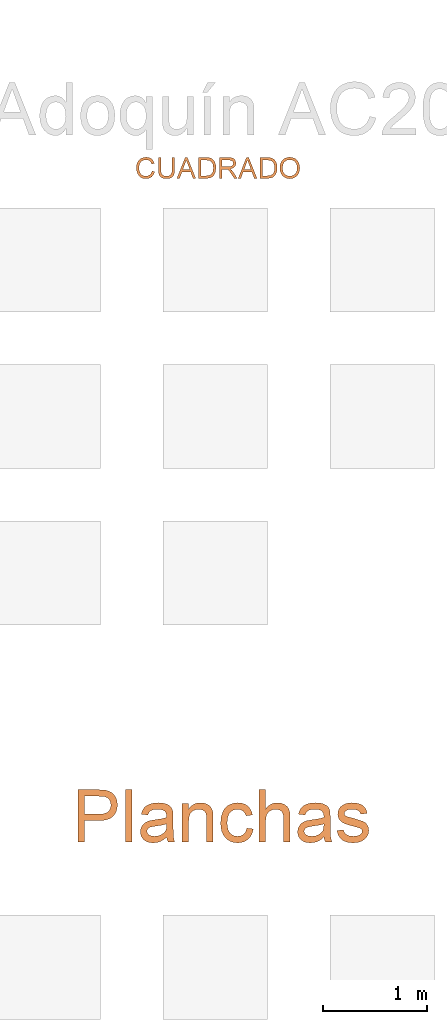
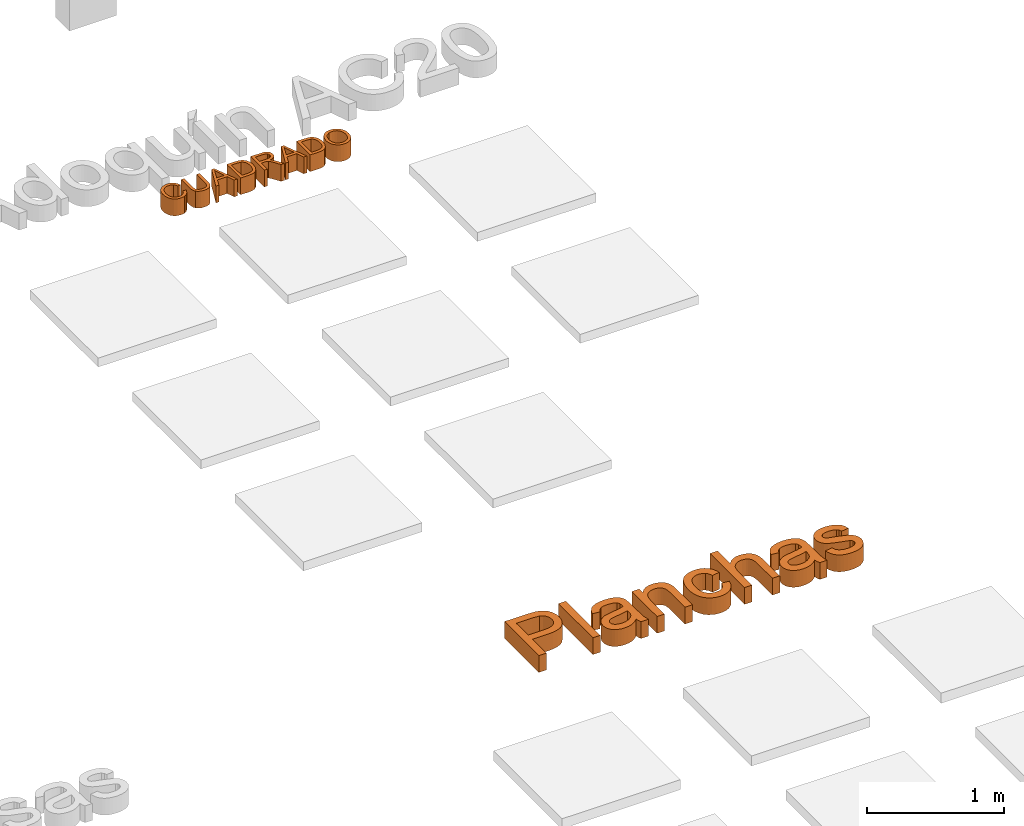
# One storey, part 11 of 19: 2 proxies.
"""IFC2X3 building model written with IfcOpenShell, lengths in metres."""

from ifc_helpers import new_model, entity, si_unit, converted_unit, derived_unit, direction, frame, frame_2d, origin, place, context, subcontext, project, spatial, polyline, rectangle, outline, extrude, type_object, element, save


model = new_model("IFC2X3")

# Units and contexts
model_context = context("Model", 3, precision=1e-05, world=origin(), true_north=direction((6.12303176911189e-17, 1.0)))
body_context = subcontext(model_context, "Body", "Model", "MODEL_VIEW")
ifc_project = project(units=[si_unit("LENGTHUNIT", "METRE"), si_unit("AREAUNIT", "SQUARE_METRE"), si_unit("VOLUMEUNIT", "CUBIC_METRE"), converted_unit("PLANEANGLEUNIT", "DEGREE", entity("IfcRatioMeasure", 0.0174532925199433), si_unit("PLANEANGLEUNIT", "RADIAN"), dimensions=[0, 0, 0, 0, 0, 0, 0]), si_unit("MASSUNIT", "GRAM", prefix="KILO"), derived_unit("MASSDENSITYUNIT", [(si_unit("MASSUNIT", "GRAM", prefix="KILO"), 1), (si_unit("LENGTHUNIT", "METRE"), -3)]), derived_unit("MOMENTOFINERTIAUNIT", [(si_unit("LENGTHUNIT", "METRE"), 4)]), si_unit("TIMEUNIT", "SECOND"), si_unit("FREQUENCYUNIT", "HERTZ"), si_unit("THERMODYNAMICTEMPERATUREUNIT", "DEGREE_CELSIUS"), derived_unit("THERMALTRANSMITTANCEUNIT", [(si_unit("MASSUNIT", "GRAM", prefix="KILO"), 1), (si_unit("THERMODYNAMICTEMPERATUREUNIT", "KELVIN"), -1), (si_unit("TIMEUNIT", "SECOND"), -3)]), derived_unit("VOLUMETRICFLOWRATEUNIT", [(si_unit("LENGTHUNIT", "METRE"), 3), (si_unit("TIMEUNIT", "SECOND"), -1)]), si_unit("ELECTRICCURRENTUNIT", "AMPERE"), si_unit("ELECTRICVOLTAGEUNIT", "VOLT"), si_unit("POWERUNIT", "WATT"), si_unit("FORCEUNIT", "NEWTON", prefix="KILO"), si_unit("ILLUMINANCEUNIT", "LUX"), si_unit("LUMINOUSFLUXUNIT", "LUMEN"), si_unit("LUMINOUSINTENSITYUNIT", "CANDELA"), derived_unit("USERDEFINED", [(si_unit("MASSUNIT", "GRAM", prefix="KILO"), -1), (si_unit("LENGTHUNIT", "METRE"), -2), (si_unit("TIMEUNIT", "SECOND"), 3), (si_unit("LUMINOUSFLUXUNIT", "LUMEN"), 1)]), derived_unit("LINEARVELOCITYUNIT", [(si_unit("LENGTHUNIT", "METRE"), 1), (si_unit("TIMEUNIT", "SECOND"), -1)]), si_unit("PRESSUREUNIT", "PASCAL"), derived_unit("USERDEFINED", [(si_unit("LENGTHUNIT", "METRE"), -2), (si_unit("MASSUNIT", "GRAM", prefix="KILO"), 1), (si_unit("TIMEUNIT", "SECOND"), -2)]), derived_unit("LINEARFORCEUNIT", [(si_unit("MASSUNIT", "GRAM", prefix="KILO"), 1), (si_unit("LENGTHUNIT", "METRE"), 1), (si_unit("TIMEUNIT", "SECOND"), -2), (si_unit("LENGTHUNIT", "METRE"), -1)]), derived_unit("PLANARFORCEUNIT", [(si_unit("MASSUNIT", "GRAM", prefix="KILO"), 1), (si_unit("LENGTHUNIT", "METRE"), 1), (si_unit("TIMEUNIT", "SECOND"), -2), (si_unit("LENGTHUNIT", "METRE"), -2)])], contexts=[model_context])

# Site, building, storey
site_placement = place(None, origin())
site = spatial("IfcSite", under=ifc_project, at=site_placement, Name="Default", CompositionType="ELEMENT")
building_placement = place(site_placement, origin())
building = spatial("IfcBuilding", under=site, at=building_placement, CompositionType="ELEMENT")
storey_placement = place(building_placement, origin())
storey = spatial("IfcBuildingStorey", under=building, at=storey_placement, Name="Nivel 1", CompositionType="ELEMENT", Elevation=0.0)

# Proxies
building_element_proxy_type_1 = type_object("IfcBuildingElementProxyType", Name="Texto de modelo:Subtítulo", PredefinedType="NOTDEFINED")
proxy_1_placement = place(storey_placement, origin())
element("IfcBuildingElementProxy", 1, at=proxy_1_placement, inside=storey, type_object=building_element_proxy_type_1, Name="Texto de modelo:Subtítulo", ObjectType="Texto de modelo:Subtítulo", context=body_context, shape_type="SweptSolid", body=[
    extrude(outline(polyline([(0.00355232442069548, -0.0754517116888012), (0.000735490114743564, -0.10123357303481), (0.0322073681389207, -0.100733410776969), (0.0586340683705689, -0.091275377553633), (0.07930924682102, -0.0735495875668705), (0.0935265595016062, -0.048246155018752), (0.100733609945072, -0.0198295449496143), (0.0996500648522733, 0.00530853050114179), (0.0908072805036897, 0.0276031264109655), (0.0747366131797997, 0.0474892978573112), (0.0532622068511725, 0.0640355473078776), (0.0282082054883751, 0.076310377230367), (-0.000248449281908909, 0.0838799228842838), (-0.0270668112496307, 0.0844731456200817), (-0.0513308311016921, 0.0782421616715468), (-0.0721244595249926, 0.0653390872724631), (-0.0887450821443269, 0.0469994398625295), (-0.10049008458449, 0.0244587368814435), (-0.106560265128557, -0.00268319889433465), (-0.103625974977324, -0.0281270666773), (-0.0921127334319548, -0.0509518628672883), (-0.0724460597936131, -0.0702365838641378), (-0.0579739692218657, -0.0488570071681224), (-0.0720305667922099, -0.0342408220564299), (-0.0795803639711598, -0.0186741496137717), (-0.0809958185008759, -0.00185900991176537), (-0.0766493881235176, 0.0165025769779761), (-0.0665154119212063, 0.0357323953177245), (-0.0527173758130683, 0.0494622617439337), (-0.0361963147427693, 0.0575953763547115), (-0.0178932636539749, 0.0600349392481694), (0.000999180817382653, 0.0580310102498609), (0.0192884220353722, 0.0528336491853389), (0.0403234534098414, 0.0428633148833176), (0.0570828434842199, 0.0304574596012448), (0.0687737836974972, 0.0156861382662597), (0.0746034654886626, -0.00138059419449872), (0.0751312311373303, -0.0194006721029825), (0.0709164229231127, -0.0370320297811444), (0.0605954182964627, -0.0555423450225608), (0.0456816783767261, -0.0685820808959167), (0.0265442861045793, -0.0754517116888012), (0.00355232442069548, -0.0754517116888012)])), frame((8.37776844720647, 2.59727446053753, 0.0), z_axis=(0.0, 0.0, -1.0), x_axis=(-0.353343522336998, -0.935493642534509, 0.0)), (0.0, 0.0, -1.0), 0.15),
    extrude(outline(polyline([(-0.13955778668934, -0.0559653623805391), (-0.13955778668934, -0.0810794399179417), (-0.0236504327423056, -0.0810794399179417), (0.00349312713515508, -0.0793749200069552), (0.0243949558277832, -0.0742613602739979), (0.0405204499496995, -0.0647086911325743), (0.0533350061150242, -0.0496868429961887), (0.0617043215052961, -0.0291590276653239), (0.0644940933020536, -0.0030884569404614), (0.0620660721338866, 0.0224118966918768), (0.0547820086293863, 0.0427986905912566), (0.0428932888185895, 0.0580780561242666), (0.0266512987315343, 0.0682561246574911), (0.00486655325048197, 0.07397668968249), (-0.0236504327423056, 0.0758835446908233), (-0.13955778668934, 0.0758835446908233), (-0.13955778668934, 0.0507694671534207), (-0.0245333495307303, 0.0507694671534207), (-0.00196378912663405, 0.0495309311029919), (0.0137509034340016, 0.0458153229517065), (0.0246340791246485, 0.0390830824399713), (0.0327090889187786, 0.0287946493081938), (0.0377122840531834, 0.0153792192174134), (0.0393800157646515, -0.000734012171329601), (0.0360813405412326, -0.0262772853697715), (0.0261853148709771, -0.0432611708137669), (0.00690829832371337, -0.0527893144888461), (-0.0245333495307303, -0.0559653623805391), (-0.13955778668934, -0.0559653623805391)])), frame((8.58262733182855, 2.55722758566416, 0.0), z_axis=(0.0, 0.0, -1.0), x_axis=(0.0, -1.0, 0.0)), (0.0, 0.0, -1.0), 0.15),
    extrude(outline(polyline([(-0.0908607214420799, -0.0659244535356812), (-0.0643732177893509, -0.0659244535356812), (-0.0414173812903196, -0.00313925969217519), (0.0413805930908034, -0.00313925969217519), (0.0643364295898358, -0.0659244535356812), (0.0908729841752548, -0.0659244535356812), (0.0107237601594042, 0.134988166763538), (-0.0106624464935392, 0.134988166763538), (-0.0908607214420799, -0.0659244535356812)]), holes=[polyline([(-0.032195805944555, 0.0219748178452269), (-0.0125263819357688, 0.0756855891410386), (-1.83940997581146e-05, 0.109874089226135), (0.0140592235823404, 0.0713691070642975), (0.0322080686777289, 0.0219748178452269), (-0.032195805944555, 0.0219748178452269)])]), frame((8.77516888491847, 2.56179720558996, 0.0)), (0.0, 0.0, 1.0), 0.15),
    extrude(outline(polyline([(-0.112205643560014, -0.108781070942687), (-0.0395612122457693, -0.108781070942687), (-0.00726117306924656, -0.10534750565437), (0.0167492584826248, -0.0952675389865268), (0.0350943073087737, -0.0770451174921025), (0.0488285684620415, -0.0477862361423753), (0.0541751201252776, -0.00724564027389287), (0.052200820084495, 0.0181382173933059), (0.0462779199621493, 0.0405299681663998), (0.0363818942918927, 0.0595617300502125), (0.0224882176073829, 0.074865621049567), (0.00897468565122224, 0.0836580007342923), (-0.00704044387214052, 0.0892375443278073), (-0.0428966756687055, 0.0921315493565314), (-0.112205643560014, 0.0921315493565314), (-0.112205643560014, -0.108781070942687)]), holes=[polyline([(-0.0870915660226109, -0.0836669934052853), (-0.0870915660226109, 0.0670174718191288), (-0.0433381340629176, 0.0670174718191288), (-0.00772715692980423, 0.0629952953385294), (0.00646695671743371, 0.0546075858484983), (0.0183434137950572, 0.0407261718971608), (0.0263816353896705, 0.0205171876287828), (0.029061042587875, -0.0068532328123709), (0.027693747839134, -0.027509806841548), (0.0235918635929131, -0.0448431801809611), (0.0170374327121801, -0.0589146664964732), (0.00831249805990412, -0.0697855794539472), (-0.0103268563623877, -0.0800372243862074), (-0.0426514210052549, -0.0836669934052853), (-0.0870915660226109, -0.0836669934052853)])]), frame((9.0050783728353, 2.60465382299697, 0.0)), (0.0, 0.0, 1.0), 0.15),
    extrude(outline(polyline([(-0.103134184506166, -0.103507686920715), (-0.0780201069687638, -0.103507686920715), (-0.0780201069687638, -0.0156084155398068), (-0.0477066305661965, -0.0156084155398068), (-0.0331385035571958, -0.0164913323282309), (-0.0211946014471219, -0.0212737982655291), (-0.00792632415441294, -0.0342968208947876), (0.0109582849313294, -0.0618634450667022), (0.0371024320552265, -0.103507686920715), (0.0662877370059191, -0.103507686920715), (0.032785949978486, -0.0490611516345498), (0.012429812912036, -0.0232113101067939), (-0.001844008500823, -0.0124691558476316), (0.0228960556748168, -0.00581049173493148), (0.0402171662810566, 0.00621924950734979), (0.0504258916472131, 0.0226267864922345), (0.0538288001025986, 0.0424188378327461), (0.0517747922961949, 0.0583297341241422), (0.0456127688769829, 0.0728058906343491), (0.0360110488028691, 0.0844800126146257), (0.023637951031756, 0.0919848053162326), (0.00670924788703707, 0.0960499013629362), (-0.016559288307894, 0.0974049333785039), (-0.103134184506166, 0.0974049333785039), (-0.103134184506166, -0.103507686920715)]), holes=[polyline([(-0.0780201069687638, 0.00950566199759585), (-0.0780201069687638, 0.0722908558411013), (-0.0154801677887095, 0.0722908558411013), (0.00439159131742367, 0.0701203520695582), (0.0180951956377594, 0.063608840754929), (0.0260598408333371, 0.0537373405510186), (0.028714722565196, 0.0414868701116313), (0.0231474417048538, 0.0244416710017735), (0.0162925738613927, 0.0176849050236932), (0.0068625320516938, 0.0130618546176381), (-0.0218077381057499, 0.00950566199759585), (-0.0780201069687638, 0.00950566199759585)])]), frame((9.19691953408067, 2.599380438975, 0.0)), (0.0, 0.0, 1.0), 0.15),
    extrude(outline(polyline([(-0.090860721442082, -0.0659244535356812), (-0.064373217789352, -0.0659244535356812), (-0.0414173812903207, -0.00313925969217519), (0.0413805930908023, -0.00313925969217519), (0.0643364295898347, -0.0659244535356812), (0.0908729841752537, -0.0659244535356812), (0.0107237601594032, 0.134988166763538), (-0.0106624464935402, 0.134988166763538), (-0.090860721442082, -0.0659244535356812)]), holes=[polyline([(-0.0321958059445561, 0.0219748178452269), (-0.0125263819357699, 0.0756855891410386), (-1.83940997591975e-05, 0.109874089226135), (0.0140592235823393, 0.0713691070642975), (0.0322080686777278, 0.0219748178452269), (-0.0321958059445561, 0.0219748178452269)])]), frame((9.36221044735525, 2.56179720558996, 0.0)), (0.0, 0.0, 1.0), 0.15),
    extrude(outline(polyline([(-0.112205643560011, -0.108781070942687), (-0.0395612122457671, -0.108781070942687), (-0.00726117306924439, -0.10534750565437), (0.0167492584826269, -0.0952675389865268), (0.0350943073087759, -0.0770451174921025), (0.0488285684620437, -0.0477862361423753), (0.0541751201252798, -0.00724564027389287), (0.0522008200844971, 0.0181382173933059), (0.0462779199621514, 0.0405299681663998), (0.0363818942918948, 0.0595617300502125), (0.022488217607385, 0.074865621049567), (0.00897468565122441, 0.0836580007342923), (-0.00704044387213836, 0.0892375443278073), (-0.0428966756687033, 0.0921315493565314), (-0.112205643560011, 0.0921315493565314), (-0.112205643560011, -0.108781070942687)]), holes=[polyline([(-0.0870915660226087, -0.0836669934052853), (-0.0870915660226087, 0.0670174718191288), (-0.0433381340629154, 0.0670174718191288), (-0.00772715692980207, 0.0629952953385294), (0.00646695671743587, 0.0546075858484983), (0.0183434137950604, 0.0407261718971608), (0.0263816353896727, 0.0205171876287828), (0.0290610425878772, -0.0068532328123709), (0.0276937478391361, -0.027509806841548), (0.0235918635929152, -0.0448431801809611), (0.0170374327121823, -0.0589146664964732), (0.00831249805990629, -0.0697855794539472), (-0.0103268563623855, -0.0800372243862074), (-0.0426514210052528, -0.0836669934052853), (-0.0870915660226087, -0.0836669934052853)])]), frame((9.59211993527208, 2.60465382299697, 0.0)), (0.0, 0.0, 1.0), 0.15),
    extrude(outline(polyline([(-0.00243168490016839, -0.0911086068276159), (0.0234245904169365, -0.0911086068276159), (0.0485406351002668, -0.0852513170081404), (0.0711120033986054, -0.0735079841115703), (0.0893342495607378, -0.0558498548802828), (0.102153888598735, -0.0333685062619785), (0.108517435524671, -0.00715551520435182), (0.108243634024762, 0.0182377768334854), (0.101630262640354, 0.0425498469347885), (0.0886621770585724, 0.064098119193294), (0.0693242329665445, 0.0812000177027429), (0.044863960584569, 0.0932041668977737), (0.0165288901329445, 0.0994591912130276), (-0.0120931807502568, 0.099718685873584), (-0.0381944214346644, 0.0938233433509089), (-0.0607333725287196, 0.081928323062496), (-0.0786685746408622, 0.0641887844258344), (-0.0911624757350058, 0.0418067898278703), (-0.0973775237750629, 0.0159844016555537), (-0.0978666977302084, -0.00428014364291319), (-0.0946364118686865, -0.0230043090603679), (-0.0876866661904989, -0.0401880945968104), (-0.0770174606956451, -0.0558315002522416), (-0.0629591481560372, -0.0691912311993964), (-0.0458420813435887, -0.0795239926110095), (-0.0256662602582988, -0.086829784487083), (-0.00243168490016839, -0.0911086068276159)]), holes=[polyline([(0.000599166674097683, -0.0661768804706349), (-0.0361667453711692, -0.0568025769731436), (-0.0494386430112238, -0.048734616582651), (-0.0593031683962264, -0.0384127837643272), (-0.0707387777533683, -0.0140249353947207), (-0.0724022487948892, 0.0133435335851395), (-0.0678254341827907, 0.0323958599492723), (-0.0586349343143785, 0.0488970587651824), (-0.045375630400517, 0.0619455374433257), (-0.0285924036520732, 0.0706397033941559), (-0.00878501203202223, 0.0748687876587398), (0.0135467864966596, 0.0745220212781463), (0.046032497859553, 0.0658786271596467), (0.0586705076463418, 0.0581976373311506), (0.0689052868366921, 0.0482771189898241), (0.0815976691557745, 0.0240388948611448), (0.0835421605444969, -0.00451464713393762), (0.0754407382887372, -0.0315391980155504), (0.057864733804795, -0.0523603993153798), (0.032391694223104, -0.0646742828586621), (0.000599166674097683, -0.0661768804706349)])]), frame((9.76222481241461, 2.60137470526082, 0.0), z_axis=(0.0, 0.0, 1.0), x_axis=(0.110978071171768, -0.993822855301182, 0.0)), (0.0, 0.0, 1.0), 0.15),
])
building_element_proxy_type_2 = type_object("IfcBuildingElementProxyType", Name="Texto de modelo:Título", PredefinedType="NOTDEFINED")
proxy_2_placement = place(storey_placement, origin())
element("IfcBuildingElementProxy", 2, at=proxy_2_placement, inside=storey, type_object=building_element_proxy_type_2, Name="Texto de modelo:Título", ObjectType="Texto de modelo:Título", context=body_context, shape_type="SweptSolid", body=[
    extrude(outline(polyline([(-0.254894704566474, -0.314815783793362), (-0.192109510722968, -0.314815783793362), (-0.192109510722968, -0.110763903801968), (-0.0644544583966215, -0.110763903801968), (-0.0157905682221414, -0.107989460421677), (0.0247415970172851, -0.0996661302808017), (0.0571420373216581, -0.0857939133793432), (0.0814107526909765, -0.0663728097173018), (0.0990882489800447, -0.0429433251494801), (0.111715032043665, -0.0170459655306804), (0.119291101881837, 0.0113192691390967), (0.121816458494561, 0.0421523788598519), (0.11807632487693, 0.0779135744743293), (0.106855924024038, 0.110639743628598), (0.0894888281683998, 0.138384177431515), (0.0673086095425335, 0.159200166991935), (0.0397634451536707, 0.173746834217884), (0.00630151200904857, 0.182683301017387), (-0.0687464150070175, 0.187465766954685), (-0.254894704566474, 0.187465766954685), (-0.254894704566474, -0.314815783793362)]), holes=[polyline([(-0.192109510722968, -0.0479787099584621), (-0.192109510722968, 0.124680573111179), (-0.0622471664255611, 0.124680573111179), (0.000538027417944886, 0.120388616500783), (0.0242510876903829, 0.109842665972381), (0.0429057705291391, 0.0919390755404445), (0.0549998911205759, 0.0681493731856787), (0.0590312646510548, 0.039945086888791), (0.0573221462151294, 0.0202097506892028), (0.052194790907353, 0.00281966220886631), (0.0436491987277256, -0.012225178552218), (0.0316853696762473, -0.0249247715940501), (0.0156518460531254, -0.0350108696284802), (-0.0051028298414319, -0.042215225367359), (-0.0305786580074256, -0.0465378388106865), (-0.0607756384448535, -0.0479787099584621), (-0.192109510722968, -0.0479787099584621)])]), frame((7.99324908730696, -3.54952954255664, 0.0)), (0.0, 0.0, 1.0), 0.15),
    extrude(rectangle(XDim=0.062785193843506, YDim=0.502281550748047, at=frame_2d((0.0, 5.55111512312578e-16), x_axis=(1.0, 0.0))), frame((8.22493963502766, -3.61320455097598, 0.0)), (0.0, 0.0, 1.0), 0.15),
    extrude(outline(polyline([(0.160198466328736, 0.0633183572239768), (0.186081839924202, 0.0633183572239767), (0.209576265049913, 0.0683751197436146), (0.223259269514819, 0.129651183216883), (0.196354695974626, 0.127680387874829), (0.169011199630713, 0.128948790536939), (0.0618611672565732, 0.149608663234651), (-0.0143748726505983, 0.166632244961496), (-0.068659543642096, 0.175612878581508), (-0.0932733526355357, 0.173350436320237), (-0.114444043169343, 0.166109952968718), (-0.133347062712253, 0.152284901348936), (-0.151157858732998, 0.130268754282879), (-0.166658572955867, 0.0992555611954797), (-0.178631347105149, 0.0584393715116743), (-0.185193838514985, 0.0145617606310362), (-0.184356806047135, -0.0251569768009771), (-0.176301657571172, -0.0592785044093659), (-0.161209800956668, -0.0863644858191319), (-0.138424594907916, -0.108116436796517), (-0.107289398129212, -0.126235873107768), (-0.0859468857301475, -0.0666701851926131), (-0.108704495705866, -0.048803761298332), (-0.121173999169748, -0.027769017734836), (-0.124323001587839, -0.000302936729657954), (-0.119119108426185, 0.0368574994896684), (-0.105885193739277, 0.0753031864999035), (-0.096879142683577, 0.089610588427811), (-0.0862803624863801, 0.100641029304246), (-0.0655621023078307, 0.109301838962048), (-0.0372732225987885, 0.107413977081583), (-0.0237098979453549, 0.10400833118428), (-0.0220814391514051, 0.0578462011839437), (-0.0263777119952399, -0.006970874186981), (-0.02900137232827, -0.0620468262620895), (-0.0256182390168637, -0.0865653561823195), (-0.0184759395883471, -0.109441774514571), (-0.00688892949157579, -0.130138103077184), (0.00982833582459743, -0.148116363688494), (0.030932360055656, -0.16206399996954), (0.0556796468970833, -0.170668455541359), (0.0777227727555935, -0.173552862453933), (0.0986131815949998, -0.172104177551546), (0.118350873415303, -0.1663224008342), (0.136935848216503, -0.156207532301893), (0.153501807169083, -0.141840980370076), (0.167182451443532, -0.123304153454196), (0.177977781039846, -0.100597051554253), (0.185887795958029, -0.0737196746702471), (0.190445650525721, -0.0391006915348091), (0.188458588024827, -0.00537611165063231), (0.17876379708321, 0.0284361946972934), (0.160198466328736, 0.0633183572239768)]), holes=[polyline([(0.0376463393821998, 0.0906843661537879), (0.0549197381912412, 0.0864502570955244), (0.0819049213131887, 0.0778800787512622), (0.10014824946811, 0.0661732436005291), (0.115770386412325, 0.0454711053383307), (0.126707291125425, 0.0182763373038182), (0.131208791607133, -0.0132611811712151), (0.127524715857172, -0.0469915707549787), (0.11727190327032, -0.0772919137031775), (0.102280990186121, -0.09758185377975), (0.0842943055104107, -0.107936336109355), (0.0650541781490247, -0.108430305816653), (0.0531649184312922, -0.103576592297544), (0.0433479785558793, -0.0947879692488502), (0.0362512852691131, -0.0825389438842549), (0.0325227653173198, -0.0673040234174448), (0.034361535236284, -0.0123669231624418), (0.0386557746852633, 0.047236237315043), (0.0376463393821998, 0.0906843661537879)])]), frame((8.48924545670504, -3.67470775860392, 0.0), z_axis=(0.0, 0.0, 1.0), x_axis=(0.217933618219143, -0.975963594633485, 0.0)), (0.0, 0.0, 1.0), 0.15),
    extrude(outline(polyline([(-0.160354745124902, -0.269066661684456), (-0.0975695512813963, -0.269066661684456), (-0.0975695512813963, -0.0733534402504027), (-0.0957799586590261, -0.0416619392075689), (-0.0904111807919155, -0.0155039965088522), (-0.0814632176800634, 0.00512038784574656), (-0.0689360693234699, 0.0202112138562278), (-0.0539410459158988, 0.0309947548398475), (-0.0375894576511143, 0.0386972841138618), (-0.0198813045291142, 0.0433188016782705), (-0.000816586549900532, 0.0448593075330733), (0.0223446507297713, 0.0421155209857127), (0.0422869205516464, 0.0338841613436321), (0.0578452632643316, 0.0210542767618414), (0.0678547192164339, 0.00451491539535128), (0.073280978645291, -0.0185696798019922), (0.0750897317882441, -0.0510352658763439), (0.0750897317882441, -0.269066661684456), (0.13787492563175, -0.269066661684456), (0.13787492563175, -0.0425739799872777), (0.134563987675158, 0.0181265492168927), (0.127160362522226, 0.0430352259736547), (0.11574069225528, 0.0642957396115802), (0.0989100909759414, 0.0818621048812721), (0.0752736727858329, 0.0956883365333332), (0.0469314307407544, 0.104655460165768), (0.0159833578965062, 0.107644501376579), (-0.0189807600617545, 0.10393502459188), (-0.0495609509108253, 0.0928065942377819), (-0.0757572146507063, 0.074259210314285), (-0.0975695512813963, 0.0482928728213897), (-0.0975695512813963, 0.0997963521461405), (-0.160354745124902, 0.0997963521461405), (-0.160354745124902, -0.269066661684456)])), frame((8.89542408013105, -3.59527866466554, 0.0)), (0.0, 0.0, 1.0), 0.15),
    extrude(outline(polyline([(0.0197392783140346, -0.109218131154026), (0.00876263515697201, -0.171532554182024), (0.0390863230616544, -0.173724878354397), (0.0672827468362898, -0.171236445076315), (0.0933519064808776, -0.16406725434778), (0.117293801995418, -0.152217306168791), (0.138397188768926, -0.136277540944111), (0.155950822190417, -0.116838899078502), (0.16995470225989, -0.0939013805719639), (0.180408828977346, -0.0674649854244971), (0.187823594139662, -0.0329033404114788), (0.188270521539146, -5.2802773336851e-06), (0.1817496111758, 0.03122919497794), (0.168260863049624, 0.0608000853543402), (0.147901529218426, 0.0876429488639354), (0.120768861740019, 0.110693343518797), (0.0868628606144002, 0.129951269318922), (0.0461835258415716, 0.145416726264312), (-0.0086262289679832, 0.157274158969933), (-0.0591401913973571, 0.157768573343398), (-0.0823563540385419, 0.153562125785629), (-0.103638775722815, 0.146129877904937), (-0.122987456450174, 0.135471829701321), (-0.140402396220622, 0.121587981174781), (-0.168466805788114, 0.0873263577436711), (-0.186867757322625, 0.0465284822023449), (-0.193234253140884, 0.0193426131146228), (-0.195155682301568, -0.0064293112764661), (-0.192632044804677, -0.0307872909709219), (-0.18566334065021, -0.0537313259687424), (-0.174443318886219, -0.0748489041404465), (-0.159165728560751, -0.0937275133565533), (-0.139830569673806, -0.110367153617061), (-0.116437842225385, -0.12476782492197), (-0.090460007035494, -0.0670727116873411), (-0.113287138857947, -0.0481268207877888), (-0.126833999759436, -0.0253985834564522), (-0.131330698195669, 0.000156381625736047), (-0.127007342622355, 0.0275824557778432), (-0.118875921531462, 0.0474003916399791), (-0.107653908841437, 0.0640773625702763), (-0.0933413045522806, 0.0776133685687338), (-0.0759381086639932, 0.0880084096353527), (-0.0553515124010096, 0.0944961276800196), (-0.0314887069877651, 0.0963101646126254), (-0.00434969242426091, 0.0934505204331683), (0.026065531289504, 0.085917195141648), (0.0559117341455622, 0.0749343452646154), (0.0802889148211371, 0.0620509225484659), (0.0991970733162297, 0.047266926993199), (0.112636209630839, 0.0305823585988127), (0.121188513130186, 0.0125076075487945), (0.125436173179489, -0.0064469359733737), (0.125379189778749, -0.0262812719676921), (0.121017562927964, -0.0469954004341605), (0.106849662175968, -0.0766507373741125), (0.0852050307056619, -0.0978769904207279), (0.071594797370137, -0.104965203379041), (0.0561470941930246, -0.109218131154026), (0.0197392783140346, -0.109218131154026)])), frame((9.25650081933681, -3.67991953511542, 0.0), z_axis=(0.0, 0.0, -1.0), x_axis=(-0.294292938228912, -0.955715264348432, 0.0)), (0.0, 0.0, -1.0), 0.15),
    extrude(outline(polyline([(-0.160635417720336, -0.275357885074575), (-0.0978502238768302, -0.275357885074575), (-0.0978502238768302, -0.0793994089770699), (-0.0952903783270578, -0.041783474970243), (-0.0876108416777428, -0.0133032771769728), (-0.0739072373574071, 0.00812584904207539), (-0.0532751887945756, 0.0245885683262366), (-0.0283665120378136, 0.0350732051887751), (-0.00183302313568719, 0.0385680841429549), (0.030663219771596, 0.0333870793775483), (0.0437843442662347, 0.0269108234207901), (0.0548208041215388, 0.0178440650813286), (0.0635656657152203, 0.00593388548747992), (0.0698119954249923, -0.00907263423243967), (0.0748090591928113, -0.0483746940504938), (0.0748090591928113, -0.275357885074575), (0.137594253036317, -0.275357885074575), (0.137594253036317, -0.0418754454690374), (0.134375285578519, 0.00579592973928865), (0.124718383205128, 0.04065274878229), (0.107581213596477, 0.0660212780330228), (0.0819214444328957, 0.0852277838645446), (0.0493332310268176, 0.0973219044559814), (0.0114107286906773, 0.10135327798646), (-0.0201581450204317, 0.0976591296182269), (-0.0488912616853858, 0.0865766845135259), (-0.0747886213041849, 0.0681059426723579), (-0.0978502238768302, 0.0422469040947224), (-0.0978502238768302, 0.226923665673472), (-0.160635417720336, 0.226923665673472), (-0.160635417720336, -0.275357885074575)])), frame((9.63343078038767, -3.58898744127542, 0.0)), (0.0, 0.0, 1.0), 0.15),
    extrude(outline(polyline([(0.160198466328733, 0.0633183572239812), (0.186081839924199, 0.0633183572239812), (0.20957626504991, 0.0683751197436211), (0.223259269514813, 0.12965118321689), (0.196354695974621, 0.127680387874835), (0.169011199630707, 0.128948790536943), (0.0618611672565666, 0.149608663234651), (-0.0143748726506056, 0.166632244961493), (-0.0686595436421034, 0.175612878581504), (-0.0932733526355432, 0.173350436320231), (-0.114444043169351, 0.16610995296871), (-0.13334706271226, 0.152284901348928), (-0.151157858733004, 0.130268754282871), (-0.166658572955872, 0.0992555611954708), (-0.178631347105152, 0.0584393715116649), (-0.185193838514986, 0.0145617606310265), (-0.184356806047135, -0.0251569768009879), (-0.17630165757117, -0.0592785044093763), (-0.161209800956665, -0.0863644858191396), (-0.138424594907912, -0.108116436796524), (-0.107289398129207, -0.126235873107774), (-0.085946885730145, -0.0666701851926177), (-0.108704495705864, -0.0488037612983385), (-0.121173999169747, -0.027769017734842), (-0.12432300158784, -0.000302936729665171), (-0.119119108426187, 0.0368574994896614), (-0.10588519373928, 0.075303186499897), (-0.0968791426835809, 0.0896105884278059), (-0.0862803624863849, 0.100641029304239), (-0.0655621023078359, 0.109301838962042), (-0.0372732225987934, 0.107413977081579), (-0.0237098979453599, 0.104008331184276), (-0.022081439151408, 0.0578462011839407), (-0.0263777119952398, -0.00697087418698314), (-0.0290013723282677, -0.0620468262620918), (-0.0256182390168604, -0.0865653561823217), (-0.0184759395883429, -0.109441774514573), (-0.00688892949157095, -0.130138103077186), (0.00982833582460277, -0.148116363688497), (0.0309323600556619, -0.162063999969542), (0.0556796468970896, -0.17066845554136), (0.0777227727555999, -0.173552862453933), (0.0986131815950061, -0.172104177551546), (0.118350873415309, -0.166322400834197), (0.136935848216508, -0.156207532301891), (0.153501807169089, -0.141840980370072), (0.167182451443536, -0.123304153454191), (0.17797778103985, -0.100597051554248), (0.185887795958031, -0.0737196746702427), (0.190445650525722, -0.0391006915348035), (0.188458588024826, -0.0053761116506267), (0.178763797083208, 0.0284361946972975), (0.160198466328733, 0.0633183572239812)]), holes=[polyline([(0.0376463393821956, 0.0906843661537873), (0.054919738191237, 0.0864502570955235), (0.0819049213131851, 0.0778800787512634), (0.100148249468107, 0.06617324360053), (0.115770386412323, 0.0454711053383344), (0.126707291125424, 0.0182763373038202), (0.131208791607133, -0.0132611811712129), (0.127524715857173, -0.0469915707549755), (0.117271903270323, -0.0772919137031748), (0.102280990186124, -0.097581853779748), (0.0842943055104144, -0.107936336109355), (0.0650541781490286, -0.108430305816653), (0.053164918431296, -0.103576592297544), (0.0433479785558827, -0.0947879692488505), (0.0362512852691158, -0.0825389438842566), (0.0325227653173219, -0.0673040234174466), (0.034361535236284, -0.0123669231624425), (0.0386557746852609, 0.0472362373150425), (0.0376463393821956, 0.0906843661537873)])]), frame((9.99609010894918, -3.67470775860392, 0.0), z_axis=(0.0, 0.0, 1.0), x_axis=(0.217933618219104, -0.975963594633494, 0.0)), (0.0, 0.0, 1.0), 0.15),
    extrude(outline(polyline([(0.0420799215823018, -0.159302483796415), (0.0703306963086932, -0.159302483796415), (0.0959363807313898, -0.155125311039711), (0.11889697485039, -0.146770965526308), (0.139212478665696, -0.134239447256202), (0.156930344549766, -0.117092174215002), (0.172098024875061, -0.0948905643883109), (0.184715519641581, -0.0676346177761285), (0.194782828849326, -0.0353243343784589), (0.20111990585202, 0.00550781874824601), (0.198885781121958, 0.043823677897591), (0.188273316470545, 0.0777565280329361), (0.169475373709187, 0.105439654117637), (0.144578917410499, 0.125808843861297), (0.115670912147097, 0.137799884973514), (0.085680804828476, 0.141369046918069), (0.0589648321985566, 0.136112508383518), (0.0356923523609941, 0.122951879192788), (0.0160327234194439, 0.102808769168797), (-0.0351726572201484, 0.0206878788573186), (-0.0613660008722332, -0.0284758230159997), (-0.0707240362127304, -0.040373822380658), (-0.0805330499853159, -0.0477947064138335), (-0.0902585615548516, -0.051126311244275), (-0.10007948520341, -0.0505764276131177), (-0.113363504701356, -0.0425759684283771), (-0.12253958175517, -0.0263165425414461), (-0.125308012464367, -0.000829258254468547), (-0.119369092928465, 0.0348547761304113), (-0.108606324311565, 0.0647841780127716), (-0.0937824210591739, 0.0853730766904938), (-0.0755138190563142, 0.0969351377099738), (-0.0544169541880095, 0.099784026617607), (-0.0466626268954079, 0.162580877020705), (-0.0794831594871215, 0.162263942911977), (-0.106578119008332, 0.155443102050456), (-0.129750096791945, 0.140676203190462), (-0.150801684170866, 0.116521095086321), (-0.168458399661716, 0.0843318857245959), (-0.181445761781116, 0.0454626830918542), (-0.186418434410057, 0.0179293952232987), (-0.187232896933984, -0.00878786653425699), (-0.184539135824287, -0.0327544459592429), (-0.178987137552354, -0.0520356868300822), (-0.167694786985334, -0.0728763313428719), (-0.151859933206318, -0.0906265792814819), (-0.132157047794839, -0.104325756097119), (-0.109260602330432, -0.113013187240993), (-0.0826896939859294, -0.116098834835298), (-0.0567193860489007, -0.111792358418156), (-0.0326654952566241, -0.0999830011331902), (-0.0118438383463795, -0.0805600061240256), (0.0109889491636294, -0.0479065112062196), (0.0742494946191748, 0.0618730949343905), (0.0899284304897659, 0.0741361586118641), (0.106727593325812, 0.0753031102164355), (0.123584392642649, 0.0656737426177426), (0.135393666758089, 0.0465681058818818), (0.139717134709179, 0.0182221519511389), (0.134116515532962, -0.0191281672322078), (0.120882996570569, -0.0550263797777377), (0.102127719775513, -0.0797294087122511), (0.0782962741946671, -0.093476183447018), (0.0498342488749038, -0.0965056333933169), (0.0420799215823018, -0.159302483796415)])), frame((10.3625316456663, -3.67468848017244, 0.0), z_axis=(0.0, 0.0, 1.0), x_axis=(0.24470535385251, -0.969597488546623, 0.0)), (0.0, 0.0, 1.0), 0.15),
])

save(model, "model.ifc")
